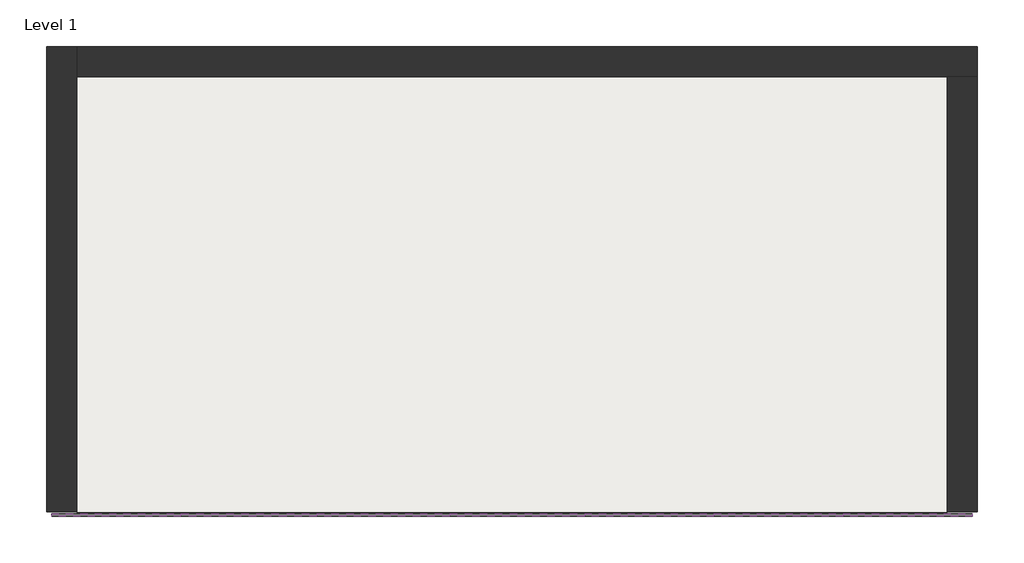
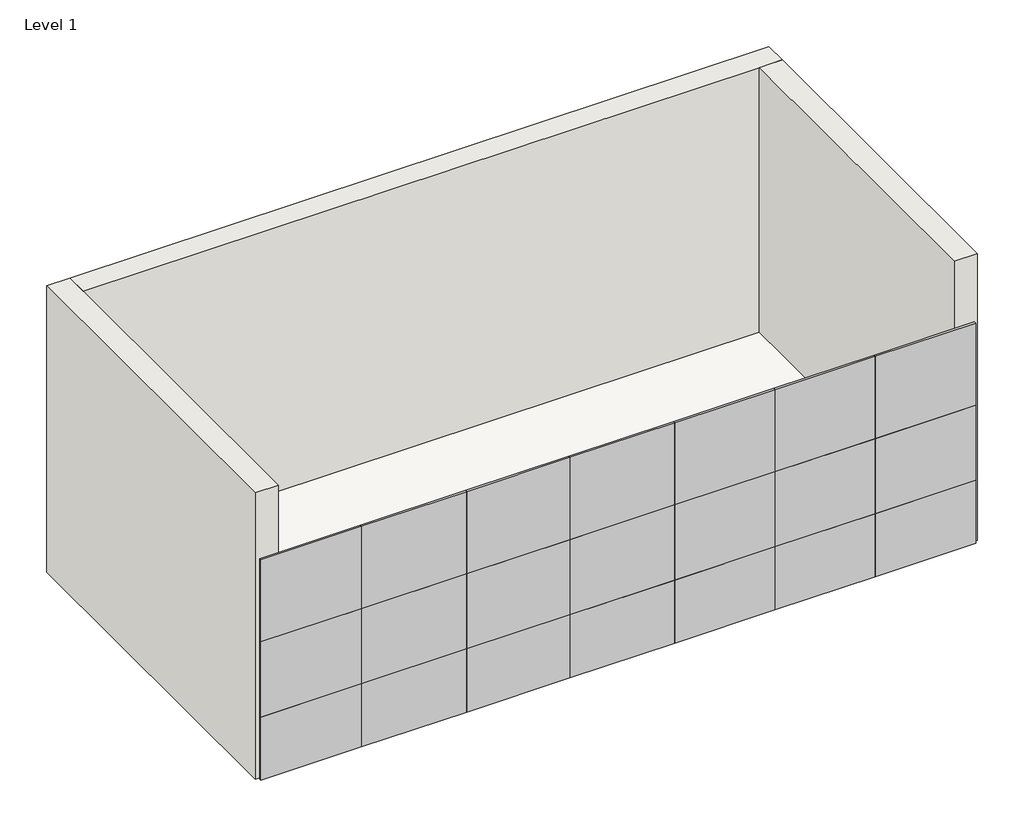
# One storey: 21 plates, 3 walls, 1 slab.
"""IFC4 building model written with IfcOpenShell, lengths in millimetres."""

import ifcopenshell
import ifcopenshell.guid

model = None  # the IFC model being written
_history = None  # IfcOwnerHistory: only IFC2X3 demands one
_inside = {}  # id of a spatial element -> (the spatial element, [elements in it])
_under = {}  # id of a project, library or spatial element -> (it, [spatial elements below it])
_declared = {}  # id of a project -> (the project, [libraries it declares])
_typed = {}  # id of a type object -> (the type object, [elements of that type])
_made_of = {}  # id of a material, layer set ... -> (it, [elements and type objects made of it])


def new_model(schema):
    """Start an empty IFC model of exactly this schema.

    Asked for "IFC4X3", IfcOpenShell would pick the latest addendum, in which some entities
    have other attributes; the version numbers below select the first issue.
    IFC2X3 requires an IfcOwnerHistory on every rooted entity: one is made here for all.
    """
    global model, _history
    if schema == "IFC4X3":
        model = ifcopenshell.file(schema_version=(4, 3, 0, 0))
    else:
        model = ifcopenshell.file(schema=schema)
    _inside.clear()
    _under.clear()
    _declared.clear()
    _typed.clear()
    _made_of.clear()
    _history = None
    if model.schema == "IFC2X3":
        org = make("IfcOrganization", Name="unknown")
        user = make(
            "IfcPersonAndOrganization",
            ThePerson=make("IfcPerson", FamilyName="unknown"),
            TheOrganization=org,
        )
        app = make(
            "IfcApplication",
            ApplicationDeveloper=org,
            Version="unknown",
            ApplicationFullName="unknown",
            ApplicationIdentifier="unknown",
        )
        _history = make(
            "IfcOwnerHistory",
            OwningUser=user,
            OwningApplication=app,
            ChangeAction="ADDED",
            CreationDate=0,
        )
    return model


def make(cls, **values):
    """One entity of the class cls with the attributes given. An attribute that is None is left unset."""
    return model.create_entity(
        cls, **{name: value for name, value in values.items() if value is not None}
    )


def rooted(cls, **values):
    """An entity with a GlobalId (a new one), such as an element, a storey or a relation."""
    return make(cls, GlobalId=ifcopenshell.guid.new(), OwnerHistory=_history, **values)


def si_unit(unit_type, name, prefix=None):
    """IfcSIUnit, for example si_unit("LENGTHUNIT", "METRE", prefix="MILLI")."""
    return make("IfcSIUnit", UnitType=unit_type, Prefix=prefix, Name=name)


def assignment(units):
    """IfcUnitAssignment: the units of a project."""
    return None if units is None else make("IfcUnitAssignment", Units=units)


def point(xyz):
    """IfcCartesianPoint."""
    return None if xyz is None else make("IfcCartesianPoint", Coordinates=xyz)


def direction(xyz):
    """IfcDirection."""
    return None if xyz is None else make("IfcDirection", DirectionRatios=xyz)


def frame(location, z_axis=None, x_axis=None):
    """IfcAxis2Placement3D, a coordinate frame: its origin and axes. An axis left out is left unset."""
    return make(
        "IfcAxis2Placement3D",
        Location=point(location),
        Axis=direction(z_axis),
        RefDirection=direction(x_axis),
    )


def origin():
    """The frame at (0, 0, 0) with its axes left unset."""
    return frame((0.0, 0.0, 0.0))


def origin_with_axes():
    """The frame at (0, 0, 0) with the z axis (0, 0, 1) and the x axis (1, 0, 0) written out."""
    return frame((0.0, 0.0, 0.0), z_axis=(0.0, 0.0, 1.0), x_axis=(1.0, 0.0, 0.0))


def place(relative_to, where):
    """IfcLocalPlacement: puts the frame where relative to a parent placement (None: the world)."""
    return make(
        "IfcLocalPlacement", PlacementRelTo=relative_to, RelativePlacement=where
    )


def context(
    kind, dimensions, precision=None, world=None, true_north=None, identifier=None
):
    """IfcGeometricRepresentationContext, for example the 3D "Model" context."""
    return make(
        "IfcGeometricRepresentationContext",
        ContextIdentifier=identifier,
        ContextType=kind,
        CoordinateSpaceDimension=dimensions,
        Precision=precision,
        WorldCoordinateSystem=world,
        TrueNorth=true_north,
    )


def project(units=None, contexts=None):
    """IfcProject with its units and contexts."""
    return rooted(
        "IfcProject",
        Name="project",
        RepresentationContexts=contexts,
        UnitsInContext=assignment(units),
    )


def spatial(cls, under=None, at=None, **own):
    """A site, building, storey or space (cls), placed at a placement, below another one or the project."""
    s = rooted(cls, ObjectPlacement=at, **own)
    if under is not None:
        _under.setdefault(under.id(), (under, []))[1].append(s)
    return s


def polyline(points):
    """IfcPolyline through the points."""
    return make("IfcPolyline", Points=[point(p) for p in points])


def outline(outer, holes=None, kind="AREA"):
    """IfcArbitraryClosedProfileDef: a profile drawn as a closed curve; with holes, ...WithVoids."""
    if holes is None:
        return make("IfcArbitraryClosedProfileDef", ProfileType=kind, OuterCurve=outer)
    return make(
        "IfcArbitraryProfileDefWithVoids",
        ProfileType=kind,
        OuterCurve=outer,
        InnerCurves=holes,
    )


def extrude(swept, where, along, depth):
    """IfcExtrudedAreaSolid: the profile swept, set in the frame where, extruded along a direction by depth."""
    return make(
        "IfcExtrudedAreaSolid",
        SweptArea=swept,
        Position=where,
        ExtrudedDirection=direction(along),
        Depth=depth,
    )


def faces_of(points, faces, orient=None, outer=None):
    """IfcFace entities. A face is a list of loops; a loop is a list of indices into points, from 0.

    orient and outer hold one flag for each loop. By default every Orientation is true, the
    first loop of a face is its IfcFaceOuterBound and the others are IfcFaceBound.
    """
    made = []
    for i, loops in enumerate(faces):
        bounds = []
        for j, loop in enumerate(loops):
            is_outer = j == 0 if outer is None else outer[i][j]
            bounds.append(
                make(
                    "IfcFaceOuterBound" if is_outer else "IfcFaceBound",
                    Bound=make("IfcPolyLoop", Polygon=[points[k] for k in loop]),
                    Orientation=True if orient is None else orient[i][j],
                )
            )
        made.append(make("IfcFace", Bounds=bounds))
    return made


def faceted_brep(points, faces, orient=None, outer=None, voids=None):
    """IfcFacetedBrep: a solid bounded by flat faces; with voids (closed shells), ...WithVoids."""
    shared = [point(p) for p in points]
    hull = make("IfcClosedShell", CfsFaces=faces_of(shared, faces, orient, outer))
    if voids is None:
        return make("IfcFacetedBrep", Outer=hull)
    return make(
        "IfcFacetedBrepWithVoids",
        Outer=hull,
        Voids=[
            make(cls, CfsFaces=faces_of(shared, fs, o, b)) for cls, fs, o, b in voids
        ],
    )


def shape(context_of_items, identifier, shape_type, items):
    """IfcShapeRepresentation: the items that make up one representation, for example the "Body"."""
    return make(
        "IfcShapeRepresentation",
        ContextOfItems=context_of_items,
        RepresentationIdentifier=identifier,
        RepresentationType=shape_type,
        Items=items,
    )


def source(mapping_origin, context_of_items, identifier, shape_type, items):
    """IfcRepresentationMap: a shape defined once, which mapped items show again and again."""
    return make(
        "IfcRepresentationMap",
        MappingOrigin=mapping_origin,
        MappedRepresentation=shape(context_of_items, identifier, shape_type, items),
    )


def transform(
    local_origin,
    x_axis=None,
    y_axis=None,
    z_axis=None,
    scale=None,
    scale2=None,
    scale3=None,
    uniform=True,
):
    """IfcCartesianTransformationOperator3D, or its non-uniform kind. x_axis, y_axis, z_axis: its Axis1, 2, 3."""
    if uniform:
        return make(
            "IfcCartesianTransformationOperator3D",
            Axis1=direction(x_axis),
            Axis2=direction(y_axis),
            LocalOrigin=point(local_origin),
            Scale=scale,
            Axis3=direction(z_axis),
        )
    return make(
        "IfcCartesianTransformationOperator3DnonUniform",
        Axis1=direction(x_axis),
        Axis2=direction(y_axis),
        LocalOrigin=point(local_origin),
        Scale=scale,
        Axis3=direction(z_axis),
        Scale2=scale2,
        Scale3=scale3,
    )


def mapped(mapping_source, mapping_target):
    """IfcMappedItem: shows the shape of a source again, moved by a transform."""
    return make(
        "IfcMappedItem", MappingSource=mapping_source, MappingTarget=mapping_target
    )


def made_of(thing, what):
    """Note that an element or type object is made of a material, layer set ...; save() writes the relation."""
    if what is not None:
        _made_of.setdefault(what.id(), (what, []))[1].append(thing)
    return thing


def element(
    cls,
    number,
    at=None,
    inside=None,
    cuts=None,
    type_object=None,
    material=None,
    context=None,
    identifier="Body",
    shape_type=None,
    held_by="IfcProductDefinitionShape",
    body=None,
    shapes=None,
    **own,
):
    """One element of the class cls, such as IfcWall. Its Tag is "e" and its number.

    at: its placement. inside: the storey or other place that contains it. cuts: it is an
    opening in that element (IfcRelVoidsElement). A single representation is given by context,
    identifier, shape_type and body (its items); several are given by shapes. held_by: the class
    of the entity that holds the representations. save() writes the other relations.
    """
    e = rooted(cls, Tag="e%d" % number, ObjectPlacement=at, **own)
    if body is not None:
        shapes = [shape(context, identifier, shape_type, body)]
    if shapes is not None:
        e.Representation = make(held_by, Representations=shapes)
    if inside is not None:
        _inside.setdefault(inside.id(), (inside, []))[1].append(e)
    if cuts is not None:
        rooted(
            "IfcRelVoidsElement", RelatingBuildingElement=cuts, RelatedOpeningElement=e
        )
    if type_object is not None:
        _typed.setdefault(type_object.id(), (type_object, []))[1].append(e)
    return made_of(e, material)


def aggregate(whole, parts):
    """IfcRelAggregates: a whole, such as a stair, and the parts it consists of."""
    return rooted("IfcRelAggregates", RelatingObject=whole, RelatedObjects=parts)


def save(model, path):
    """Write the relations noted so far, then the file.

    IfcRelAggregates (storeys below a building ...), IfcRelContainedInSpatialStructure (elements
    in a storey), IfcRelDefinesByType, IfcRelAssociatesMaterial and IfcRelDeclares: one each for
    every whole, place, type object, material and project.
    """
    for whole, parts in _under.values():
        aggregate(whole, parts)
    for where, things in _inside.values():
        rooted(
            "IfcRelContainedInSpatialStructure",
            RelatedElements=things,
            RelatingStructure=where,
        )
    for kind, things in _typed.values():
        rooted("IfcRelDefinesByType", RelatedObjects=things, RelatingType=kind)
    for what, things in _made_of.values():
        rooted("IfcRelAssociatesMaterial", RelatedObjects=things, RelatingMaterial=what)
    for by, libraries in _declared.values():
        rooted("IfcRelDeclares", RelatingContext=by, RelatedDefinitions=libraries)
    model.write(path)


def system_panel_glazed_8e20a8fe(model_context):
    return source(origin(), model_context, "Body", "SweptSolid", [
        extrude(outline(polyline([(656.9445429, 19.05), (-656.9445429, 19.05), (-656.9445429, 44.45), (656.9445429, 44.45), (656.9445429, 19.05)])), origin_with_axes(), (0.0, 0.0, 1.0), 871.864222),
    ])


def system_panel_glazed_9b01451f(model_context):
    return source(origin(), model_context, "Body", "SweptSolid", [
        extrude(outline(polyline([(656.9445429, 19.05), (-656.9445429, 19.05), (-656.9445429, 44.45), (656.9445429, 44.45), (656.9445429, 19.05)])), origin_with_axes(), (0.0, 0.0, 1.0), 1038.7193103),
    ])


def system_panel_glazed_3f4f12dd(model_context):
    return source(origin(), model_context, "Body", "SweptSolid", [
        extrude(outline(polyline([(656.9445429, 19.05), (-656.9445429, 19.05), (-656.9445429, 44.45), (656.9445429, 44.45), (656.9445429, 19.05)])), origin_with_axes(), (0.0, 0.0, 1.0), 1137.4164677),
    ])


def system_panel_glazed_a04ada38(model_context):
    return source(origin(), model_context, "Body", "SweptSolid", [
        extrude(outline(polyline([(688.5886914, 19.05), (-688.5886914, 19.05), (-688.5886914, 44.45), (688.5886914, 44.45), (688.5886914, 19.05)])), origin_with_axes(), (0.0, 0.0, 1.0), 871.864222),
    ])


def system_panel_glazed_bff4cae0(model_context):
    return source(origin(), model_context, "Body", "SweptSolid", [
        extrude(outline(polyline([(688.5886914, 19.05), (-688.5886914, 19.05), (-688.5886914, 44.45), (688.5886914, 44.45), (688.5886914, 19.05)])), origin_with_axes(), (0.0, 0.0, 1.0), 1038.7193103),
    ])


def system_panel_glazed_b5729ea7(model_context):
    return source(origin(), model_context, "Body", "SweptSolid", [
        extrude(outline(polyline([(688.5886914, 19.05), (-688.5886914, 19.05), (-688.5886914, 44.45), (688.5886914, 44.45), (688.5886914, 19.05)])), origin_with_axes(), (0.0, 0.0, 1.0), 1137.4164677),
    ])


def system_panel_glazed_cc759a12(model_context):
    return source(origin(), model_context, "Body", "SweptSolid", [
        extrude(outline(polyline([(674.4738159, 19.05), (-674.4738159, 19.05), (-674.4738159, 44.45), (674.4738159, 44.45), (674.4738159, 19.05)])), origin_with_axes(), (0.0, 0.0, 1.0), 871.864222),
    ])


def system_panel_glazed_27d978d9(model_context):
    return source(origin(), model_context, "Body", "SweptSolid", [
        extrude(outline(polyline([(674.4738159, 19.05), (-674.4738159, 19.05), (-674.4738159, 44.45), (674.4738159, 44.45), (674.4738159, 19.05)])), origin_with_axes(), (0.0, 0.0, 1.0), 1038.7193103),
    ])


def system_panel_glazed_607453f2(model_context):
    return source(origin(), model_context, "Body", "SweptSolid", [
        extrude(outline(polyline([(674.4738159, 19.05), (-674.4738159, 19.05), (-674.4738159, 44.45), (674.4738159, 44.45), (674.4738159, 19.05)])), origin_with_axes(), (0.0, 0.0, 1.0), 1137.4164677),
    ])


def system_panel_glazed_225245cb(model_context):
    return source(origin(), model_context, "Body", "SweptSolid", [
        extrude(outline(polyline([(685.4060559, 19.05), (-685.4060559, 19.05), (-685.4060559, 44.45), (685.4060559, 44.45), (685.4060559, 19.05)])), origin_with_axes(), (0.0, 0.0, 1.0), 871.864222),
    ])


def system_panel_glazed_76e23768(model_context):
    return source(origin(), model_context, "Body", "SweptSolid", [
        extrude(outline(polyline([(685.4060559, 19.05), (-685.4060559, 19.05), (-685.4060559, 44.45), (685.4060559, 44.45), (685.4060559, 19.05)])), origin_with_axes(), (0.0, 0.0, 1.0), 1038.7193103),
    ])


def system_panel_glazed_1b4b6858(model_context):
    return source(origin(), model_context, "Body", "SweptSolid", [
        extrude(outline(polyline([(685.4060559, 19.05), (-685.4060559, 19.05), (-685.4060559, 44.45), (685.4060559, 44.45), (685.4060559, 19.05)])), origin_with_axes(), (0.0, 0.0, 1.0), 1137.4164677),
    ])


def system_panel_glazed_00f8b805(model_context):
    return source(origin(), model_context, "Body", "SweptSolid", [
        extrude(outline(polyline([(656.062298, 19.05), (-656.062298, 19.05), (-656.062298, 44.45), (656.062298, 44.45), (656.062298, 19.05)])), origin_with_axes(), (0.0, 0.0, 1.0), 871.864222),
    ])


def system_panel_glazed_acd0aa78(model_context):
    return source(origin(), model_context, "Body", "SweptSolid", [
        extrude(outline(polyline([(656.062298, 19.05), (-656.062298, 19.05), (-656.062298, 44.45), (656.062298, 44.45), (656.062298, 19.05)])), origin_with_axes(), (0.0, 0.0, 1.0), 1038.7193103),
    ])


def system_panel_glazed_95237d86(model_context):
    return source(origin(), model_context, "Body", "SweptSolid", [
        extrude(outline(polyline([(656.062298, 19.05), (-656.062298, 19.05), (-656.062298, 44.45), (656.062298, 44.45), (656.062298, 19.05)])), origin_with_axes(), (0.0, 0.0, 1.0), 1137.4164677),
    ])


model = new_model("IFC4")

# Units and contexts
model_context = context("Model", 3, world=origin())
ifc_project = project(units=[si_unit("LENGTHUNIT", "METRE", prefix="MILLI")], contexts=[model_context])

# Site, building, storey
site = spatial("IfcSite", under=ifc_project)
building = spatial("IfcBuilding", under=site)
storey = spatial("IfcBuildingStorey", under=building, Name="Level 1", Elevation=0.0)

# Plates
placement = place(None, origin())
system_panel_glazed_shape = system_panel_glazed_8e20a8fe(model_context)
element("IfcPlate", 1, ObjectType="System Panel : Glazed", at=placement, inside=storey, context=model_context, shape_type="MappedRepresentation", body=[
    mapped(system_panel_glazed_shape, transform((-2448.7996198, 909.2024759, 0.0), x_axis=(-1.0, 0.0, 0.0), y_axis=(0.0, -1.0, 0.0), z_axis=(0.0, 0.0, 1.0))),
])
system_panel_glazed_2_shape = system_panel_glazed_9b01451f(model_context)
element("IfcPlate", 2, ObjectType="System Panel : Glazed", at=placement, inside=storey, context=model_context, shape_type="MappedRepresentation", body=[
    mapped(system_panel_glazed_2_shape, transform((-2448.7996198, 909.2024759, 871.864222), x_axis=(-1.0, 0.0, 0.0), y_axis=(0.0, -1.0, 0.0), z_axis=(0.0, 0.0, 1.0))),
])
system_panel_glazed_3_shape = system_panel_glazed_3f4f12dd(model_context)
element("IfcPlate", 3, ObjectType="System Panel : Glazed", at=placement, inside=storey, context=model_context, shape_type="MappedRepresentation", body=[
    mapped(system_panel_glazed_3_shape, transform((-2448.7996198, 909.2024759, 1910.5835323), x_axis=(-1.0, 0.0, 0.0), y_axis=(0.0, -1.0, 0.0), z_axis=(0.0, 0.0, 1.0))),
])
system_panel_glazed_4_shape = system_panel_glazed_a04ada38(model_context)
element("IfcPlate", 4, ObjectType="System Panel : Glazed", at=placement, inside=storey, context=model_context, shape_type="MappedRepresentation", body=[
    mapped(system_panel_glazed_4_shape, transform((-1103.2663854, 909.2024759, 0.0), x_axis=(-1.0, 0.0, 0.0), y_axis=(0.0, -1.0, 0.0), z_axis=(0.0, 0.0, 1.0))),
])
system_panel_glazed_5_shape = system_panel_glazed_bff4cae0(model_context)
element("IfcPlate", 5, ObjectType="System Panel : Glazed", at=placement, inside=storey, context=model_context, shape_type="MappedRepresentation", body=[
    mapped(system_panel_glazed_5_shape, transform((-1103.2663854, 909.2024759, 871.864222), x_axis=(-1.0, 0.0, 0.0), y_axis=(0.0, -1.0, 0.0), z_axis=(0.0, 0.0, 1.0))),
])
system_panel_glazed_6_shape = system_panel_glazed_b5729ea7(model_context)
element("IfcPlate", 6, ObjectType="System Panel : Glazed", at=placement, inside=storey, context=model_context, shape_type="MappedRepresentation", body=[
    mapped(system_panel_glazed_6_shape, transform((-1103.2663854, 909.2024759, 1910.5835323), x_axis=(-1.0, 0.0, 0.0), y_axis=(0.0, -1.0, 0.0), z_axis=(0.0, 0.0, 1.0))),
])
system_panel_glazed_7_shape = system_panel_glazed_cc759a12(model_context)
element("IfcPlate", 7, ObjectType="System Panel : Glazed", at=placement, inside=storey, context=model_context, shape_type="MappedRepresentation", body=[
    mapped(system_panel_glazed_7_shape, transform((259.7961218, 909.2024759, 0.0), x_axis=(-1.0, 0.0, 0.0), y_axis=(0.0, -1.0, 0.0), z_axis=(0.0, 0.0, 1.0))),
])
system_panel_glazed_8_shape = system_panel_glazed_27d978d9(model_context)
element("IfcPlate", 8, ObjectType="System Panel : Glazed", at=placement, inside=storey, context=model_context, shape_type="MappedRepresentation", body=[
    mapped(system_panel_glazed_8_shape, transform((259.7961218, 909.2024759, 871.864222), x_axis=(-1.0, 0.0, 0.0), y_axis=(0.0, -1.0, 0.0), z_axis=(0.0, 0.0, 1.0))),
])
system_panel_glazed_9_shape = system_panel_glazed_607453f2(model_context)
element("IfcPlate", 9, ObjectType="System Panel : Glazed", at=placement, inside=storey, context=model_context, shape_type="MappedRepresentation", body=[
    mapped(system_panel_glazed_9_shape, transform((259.7961218, 909.2024759, 1910.5835323), x_axis=(-1.0, 0.0, 0.0), y_axis=(0.0, -1.0, 0.0), z_axis=(0.0, 0.0, 1.0))),
])
system_panel_glazed_10_shape = system_panel_glazed_225245cb(model_context)
element("IfcPlate", 10, ObjectType="System Panel : Glazed", at=placement, inside=storey, context=model_context, shape_type="MappedRepresentation", body=[
    mapped(system_panel_glazed_10_shape, transform((1619.6759936, 909.2024759, 0.0), x_axis=(-1.0, 0.0, 0.0), y_axis=(0.0, -1.0, 0.0), z_axis=(0.0, 0.0, 1.0))),
])
system_panel_glazed_11_shape = system_panel_glazed_76e23768(model_context)
element("IfcPlate", 11, ObjectType="System Panel : Glazed", at=placement, inside=storey, context=model_context, shape_type="MappedRepresentation", body=[
    mapped(system_panel_glazed_11_shape, transform((1619.6759936, 909.2024759, 871.864222), x_axis=(-1.0, 0.0, 0.0), y_axis=(0.0, -1.0, 0.0), z_axis=(0.0, 0.0, 1.0))),
])
system_panel_glazed_12_shape = system_panel_glazed_1b4b6858(model_context)
element("IfcPlate", 12, ObjectType="System Panel : Glazed", at=placement, inside=storey, context=model_context, shape_type="MappedRepresentation", body=[
    mapped(system_panel_glazed_12_shape, transform((1619.6759936, 909.2024759, 1910.5835323), x_axis=(-1.0, 0.0, 0.0), y_axis=(0.0, -1.0, 0.0), z_axis=(0.0, 0.0, 1.0))),
])
system_panel_glazed_13_shape = system_panel_glazed_00f8b805(model_context)
element("IfcPlate", 13, ObjectType="System Panel : Glazed", at=placement, inside=storey, context=model_context, shape_type="MappedRepresentation", body=[
    mapped(system_panel_glazed_13_shape, transform((5585.3935393, 909.2024759, 0.0), x_axis=(-1.0, 0.0, 0.0), y_axis=(0.0, -1.0, 0.0), z_axis=(0.0, 0.0, 1.0))),
])
element("IfcPlate", 14, ObjectType="System Panel : Glazed", at=placement, inside=storey, context=model_context, shape_type="MappedRepresentation", body=[
    mapped(system_panel_glazed_13_shape, transform((2961.1443475, 909.2024759, 0.0), x_axis=(-1.0, 0.0, 0.0), y_axis=(0.0, -1.0, 0.0), z_axis=(0.0, 0.0, 1.0))),
])
element("IfcPlate", 15, ObjectType="System Panel : Glazed", at=placement, inside=storey, context=model_context, shape_type="MappedRepresentation", body=[
    mapped(system_panel_glazed_13_shape, transform((4273.2689434, 909.2024759, 0.0), x_axis=(-1.0, 0.0, 0.0), y_axis=(0.0, -1.0, 0.0), z_axis=(0.0, 0.0, 1.0))),
])
system_panel_glazed_14_shape = system_panel_glazed_acd0aa78(model_context)
element("IfcPlate", 16, ObjectType="System Panel : Glazed", at=placement, inside=storey, context=model_context, shape_type="MappedRepresentation", body=[
    mapped(system_panel_glazed_14_shape, transform((5585.3935393, 909.2024759, 871.864222), x_axis=(-1.0, 0.0, 0.0), y_axis=(0.0, -1.0, 0.0), z_axis=(0.0, 0.0, 1.0))),
])
element("IfcPlate", 17, ObjectType="System Panel : Glazed", at=placement, inside=storey, context=model_context, shape_type="MappedRepresentation", body=[
    mapped(system_panel_glazed_14_shape, transform((2961.1443475, 909.2024759, 871.864222), x_axis=(-1.0, 0.0, 0.0), y_axis=(0.0, -1.0, 0.0), z_axis=(0.0, 0.0, 1.0))),
])
element("IfcPlate", 18, ObjectType="System Panel : Glazed", at=placement, inside=storey, context=model_context, shape_type="MappedRepresentation", body=[
    mapped(system_panel_glazed_14_shape, transform((4273.2689434, 909.2024759, 871.864222), x_axis=(-1.0, 0.0, 0.0), y_axis=(0.0, -1.0, 0.0), z_axis=(0.0, 0.0, 1.0))),
])
system_panel_glazed_15_shape = system_panel_glazed_95237d86(model_context)
element("IfcPlate", 19, ObjectType="System Panel : Glazed", at=placement, inside=storey, context=model_context, shape_type="MappedRepresentation", body=[
    mapped(system_panel_glazed_15_shape, transform((5585.3935393, 909.2024759, 1910.5835323), x_axis=(-1.0, 0.0, 0.0), y_axis=(0.0, -1.0, 0.0), z_axis=(0.0, 0.0, 1.0))),
])
element("IfcPlate", 20, ObjectType="System Panel : Glazed", at=placement, inside=storey, context=model_context, shape_type="MappedRepresentation", body=[
    mapped(system_panel_glazed_15_shape, transform((2961.1443475, 909.2024759, 1910.5835323), x_axis=(-1.0, 0.0, 0.0), y_axis=(0.0, -1.0, 0.0), z_axis=(0.0, 0.0, 1.0))),
])
element("IfcPlate", 21, ObjectType="System Panel : Glazed", at=placement, inside=storey, context=model_context, shape_type="MappedRepresentation", body=[
    mapped(system_panel_glazed_15_shape, transform((4273.2689434, 909.2024759, 1910.5835323), x_axis=(-1.0, 0.0, 0.0), y_axis=(0.0, -1.0, 0.0), z_axis=(0.0, 0.0, 1.0))),
])

# Slab
element("IfcSlab", 22, ObjectType="Generic - 12\"", at=placement, inside=storey, context=model_context, shape_type="SweptSolid", body=[
    extrude(outline(polyline([(5987.4558373, 909.2024759), (-2851.7441627, 909.2024759), (-2851.7441627, 5328.8024759), (5987.4558373, 5328.8024759), (5987.4558373, 909.2024759)])), origin_with_axes(), (0.0, 0.0, 1.0), 304.8),
])

# Walls
element("IfcWall", 23, ObjectType="Generic - 12\"", at=placement, inside=storey, context=model_context, shape_type="Brep", body=[
    faceted_brep([(-2851.7441627, 909.2024759, 0.0), (-2851.7441627, 5328.8024759, 0.0), (-2851.7441627, 5633.6024759, 0.0), (-2851.7441627, 5633.6024759, 3962.4), (-2851.7441627, 5328.8024759, 3962.4), (-2851.7441627, 909.2024759, 3962.4), (-3156.5441627, 909.2024759, 0.0), (-3156.5441627, 909.2024759, 3962.4), (-3156.5441627, 5633.6024759, 3962.4), (-3156.5441627, 5633.6024759, 0.0)], [[[0, 1, 2, 3, 4, 5]], [[6, 7, 8, 9]], [[2, 1, 0, 6, 9]], [[5, 4, 3, 8, 7]], [[0, 5, 7, 6]], [[3, 2, 9, 8]]]),
])
element("IfcWall", 24, ObjectType="Generic - 12\"", at=placement, inside=storey, context=model_context, shape_type="Brep", body=[
    faceted_brep([(-2851.7441627, 5328.8024759, 0.0), (5987.4558373, 5328.8024759, 0.0), (6292.2558373, 5328.8024759, 0.0), (6292.2558373, 5328.8024759, 3962.4), (5987.4558373, 5328.8024759, 3962.4), (-2851.7441627, 5328.8024759, 3962.4), (-2851.7441627, 5633.6024759, 0.0), (-2851.7441627, 5633.6024759, 3962.4), (6292.2558373, 5633.6024759, 3962.4), (6292.2558373, 5633.6024759, 0.0)], [[[0, 1, 2, 3, 4, 5]], [[6, 7, 8, 9]], [[2, 1, 0, 6, 9]], [[5, 4, 3, 8, 7]], [[3, 2, 9, 8]], [[0, 5, 7, 6]]]),
])
element("IfcWall", 25, ObjectType="Generic - 12\"", at=placement, inside=storey, context=model_context, shape_type="SweptSolid", body=[
    extrude(outline(polyline([(5987.4558373, 909.2024759), (5987.4558373, 5328.8024759), (6292.2558373, 5328.8024759), (6292.2558373, 909.2024759), (5987.4558373, 909.2024759)])), origin_with_axes(), (0.0, 0.0, 1.0), 3962.4),
])

save(model, "model.ifc")
